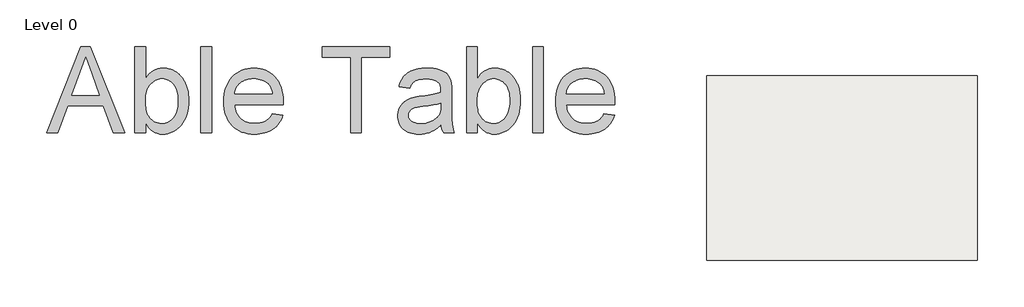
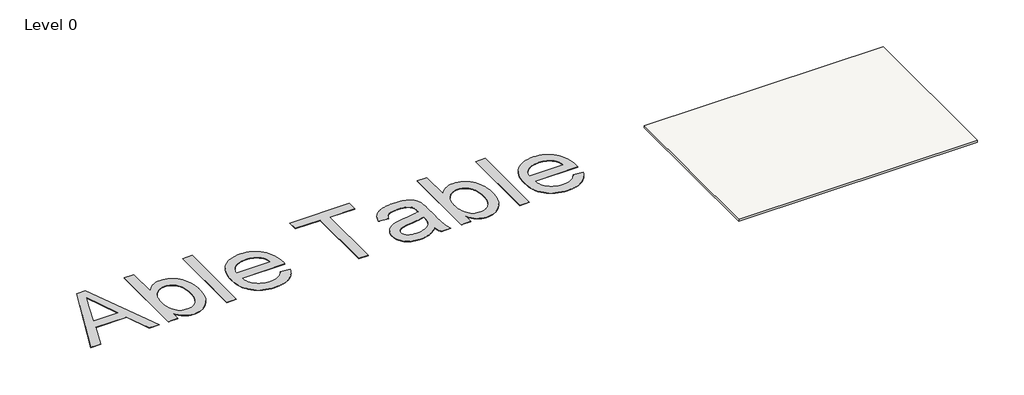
# One storey, incomplete: 1 proxy, 1 slab.
"""IFC4 building model written with IfcOpenShell, lengths in millimetres."""

from ifc_helpers import new_model, si_unit, frame, origin, origin_with_axes, place, context, project, spatial, polyline, outline, extrude, element, save

model = new_model("IFC4")

# Units and contexts
model_context = context("Model", 3, world=origin())
ifc_project = project(units=[si_unit("LENGTHUNIT", "METRE", prefix="MILLI")], contexts=[model_context])

# Site, building, storey
site = spatial("IfcSite", under=ifc_project)
building = spatial("IfcBuilding", under=site)
storey = spatial("IfcBuildingStorey", under=building, Name="Level 0", Elevation=0.0)

# Proxy
placement = place(None, origin())
element("IfcBuildingElementProxy", 1, Name="10 mm", ObjectType="10 mm", at=placement, inside=storey, context=model_context, shape_type="SweptSolid", body=[
    extrude(outline(polyline([(-181909.5749586, 70710.4267394), (-177899.6612112, 80756.0577544), (-176830.3508785, 80756.0577544), (-172820.4371311, 70710.4267394), (-174147.2648604, 70710.4267394), (-175297.509232, 73849.6864316), (-179434.9554044, 73849.6864316), (-180582.7472293, 70710.4267394), (-181909.5749586, 70710.4267394)]), holes=[polyline([(-178973.8766371, 75105.3903085), (-175756.1354526, 75105.3903085), (-176661.1251608, 77575.1047694), (-177365.0060449, 79500.3538775), (-177990.4054367, 77790.9288732), (-178973.8766371, 75105.3903085)])]), origin_with_axes(), (0.0, 0.0, 1.0), 50.0),
    extrude(outline(polyline([(-170380.1532298, 70710.4267394), (-171635.8571066, 70710.4267394), (-171635.8571066, 80756.0577544), (-170380.1532298, 80756.0577544), (-170380.1532298, 77030.6394165), (-170180.3473211, 77315.1731472), (-169967.2056902, 77561.7690471), (-169740.7283369, 77770.4271162), (-169500.9152613, 77941.1473546), (-169247.7664634, 78073.9297622), (-168981.2819431, 78168.7743391), (-168701.4617005, 78225.6810853), (-168408.3057356, 78244.6500006), (-168243.2570113, 78240.3772045), (-168080.4309074, 78227.5588163), (-167919.8274239, 78206.1948358), (-167761.4465608, 78176.2852632), (-167605.288318, 78137.8300984), (-167451.3526957, 78090.8293414), (-167299.6396937, 78035.2829922), (-167150.1493121, 77971.1910509), (-167005.0658503, 77899.3582592), (-166866.5736075, 77820.5893591), (-166734.6725838, 77734.8843505), (-166609.3627792, 77642.2432335), (-166490.6441937, 77542.6660081), (-166378.5168272, 77436.1526741), (-166272.9806799, 77322.7032318), (-166174.0357516, 77202.317681), (-166080.9731031, 77075.264269), (-165993.0837952, 76941.8112431), (-165910.3678279, 76801.9586034), (-165832.8252011, 76655.7063498), (-165760.4559148, 76503.0544823), (-165693.2599691, 76344.003001), (-165631.237364, 76178.5519057), (-165574.3880994, 76006.7011966), (-165523.5169173, 75830.1369995), (-165479.4285594, 75650.5454401), (-165442.1230259, 75467.9265184), (-165411.6003166, 75282.2802345), (-165387.8604316, 75093.6065883), (-165370.9033709, 74901.9055799), (-165360.7291344, 74707.1772092), (-165357.3377223, 74509.4214763), (-165371.3823839, 74050.1054769), (-165413.5163686, 73617.6142063), (-165483.7396766, 73211.9476645), (-165582.0523077, 72833.1058516), (-165708.454262, 72481.0887674), (-165862.9455394, 72155.8964121), (-166045.52614, 71857.5287856), (-166256.1960638, 71585.9858879), (-166486.5630028, 71343.988513), (-166728.2346489, 71134.2574547), (-166981.2110021, 70956.7927131), (-167245.4920625, 70811.5942881), (-167521.0778301, 70698.6621798), (-167807.9683047, 70617.9963881), (-168106.1634866, 70569.5969131), (-168415.6633755, 70553.4637548), (-168719.9707634, 70574.2720802), (-169007.4935353, 70636.6970562), (-169278.2316911, 70740.738683), (-169532.1852309, 70886.3969604), (-169769.3541547, 71073.6718886), (-169989.7384624, 71302.5634675), (-170193.3381541, 71573.0716971), (-170380.1532298, 71885.1965773), (-170380.1532298, 70710.4267394)]), holes=[polyline([(-170380.1532298, 74450.560357), (-170374.788284, 74157.0211817), (-170358.6934467, 73884.6352211), (-170331.8687179, 73633.4024753), (-170294.3140976, 73403.3229441), (-170246.0295857, 73194.3966277), (-170187.0151823, 73006.623526), (-170117.2708874, 72840.003639), (-170036.7967009, 72694.5369667), (-169890.8318551, 72487.0285288), (-169732.5276341, 72307.1878826), (-169561.8840378, 72155.0150282), (-169378.9010662, 72030.5099654), (-169183.5787194, 71933.6726944), (-168975.9169973, 71864.5032151), (-168755.9159, 71823.0015275), (-168523.5754274, 71809.1676317), (-168332.5067162, 71819.3610286), (-168148.029224, 71849.9412195), (-167970.142951, 71900.9082042), (-167798.8478969, 71972.2619829), (-167634.144062, 72064.0025554), (-167476.0314462, 72176.1299219), (-167324.5100494, 72308.6440822), (-167179.5798717, 72461.5450365), (-167046.7974641, 72634.6411794), (-166931.7193775, 72827.7409058), (-166834.3456119, 73040.8442157), (-166754.6761673, 73273.9511091), (-166692.7110437, 73527.061586), (-166648.4502412, 73800.1756464), (-166621.8937597, 74093.2932903), (-166613.0415992, 74406.4145176), (-166621.5297098, 74726.088643), (-166646.9940416, 75024.1497012), (-166689.4345947, 75300.5976921), (-166748.851369, 75555.4326159), (-166825.2443646, 75788.6544724), (-166918.6135814, 76000.2632617), (-167028.9590194, 76190.2589838), (-167156.2806787, 76358.6416387), (-167295.6351449, 76506.3692524), (-167442.0790037, 76634.3998509), (-167595.6122551, 76742.7334343), (-167756.2348992, 76831.3700025), (-167923.9469358, 76900.3095555), (-168098.7483651, 76949.5520934), (-168280.639187, 76979.0976162), (-168469.6194015, 76988.9461238), (-168660.6881127, 76978.7527268), (-168845.1656049, 76948.172536), (-169023.051878, 76897.2055512), (-169194.346932, 76825.8517726), (-169359.0507669, 76734.1112), (-169517.1633828, 76621.9838336), (-169668.6847795, 76489.4696732), (-169813.6149572, 76336.568719), (-169946.3973648, 76164.392281), (-170061.4754514, 75974.0516696), (-170158.849217, 75765.5468846), (-170238.5186616, 75538.8779261), (-170300.4837852, 75294.0447941), (-170344.7445877, 75031.0474886), (-170371.3010693, 74749.8860096), (-170380.1532298, 74450.560357)])]), origin_with_axes(), (0.0, 0.0, 1.0), 50.0),
    extrude(outline(polyline([(-163944.6708608, 70710.4267394), (-163944.6708608, 80756.0577544), (-162688.9669839, 80756.0577544), (-162688.9669839, 70710.4267394), (-163944.6708608, 70710.4267394)])), origin_with_axes(), (0.0, 0.0, 1.0), 50.0),
    extrude(outline(polyline([(-155640.3479564, 72907.9085239), (-154409.1695458, 72750.9455393), (-154495.2960858, 72497.0686416), (-154597.9389946, 72257.8303816), (-154717.0982721, 72033.2307594), (-154852.7739183, 71823.2697748), (-155004.9659333, 71627.947428), (-155173.6743171, 71447.2637189), (-155358.8990695, 71281.2186476), (-155560.6401907, 71129.8122139), (-155777.9013336, 70994.7305438), (-156009.6861511, 70877.6597631), (-156255.9946432, 70778.5998716), (-156516.8268099, 70697.5508696), (-156792.1826511, 70634.5127569), (-157082.062167, 70589.4855335), (-157386.4653575, 70562.4691995), (-157705.3922226, 70553.4637548), (-158105.5788555, 70569.002937), (-158484.5356316, 70615.6204836), (-158842.2625508, 70693.3163945), (-159178.7596133, 70802.0906699), (-159494.026819, 70941.9433096), (-159788.0641678, 71112.8743137), (-160060.8716599, 71314.8836822), (-160312.4492951, 71547.9714151), (-160538.3518328, 71809.1101501), (-160734.1340321, 72095.272525), (-160899.795893, 72406.4585398), (-161035.3374156, 72742.6681944), (-161140.7585999, 73103.901489), (-161216.0594458, 73490.1584234), (-161261.2399533, 73901.4389977), (-161276.3001225, 74337.7432119), (-161261.0866691, 74788.8968295), (-161215.4463091, 75214.0687812), (-161139.3790424, 75613.259067), (-161032.884869, 75986.4676869), (-160895.9637889, 76333.6946409), (-160728.6158021, 76654.939929), (-160530.8409087, 76950.2035511), (-160302.6391086, 77219.4855074), (-160050.1800894, 77459.7584355), (-159779.6335388, 77667.9949732), (-159490.9994567, 77844.1951205), (-159184.2778432, 77988.3588773), (-158859.4686983, 78100.4862438), (-158516.572022, 78180.5772198), (-158155.5878142, 78228.6318054), (-157776.516075, 78244.6500006), (-157409.8411926, 78228.6701265), (-157060.2958157, 78180.730504), (-156727.8799441, 78100.8311331), (-156412.5935779, 77988.972014), (-156114.4367171, 77845.1531465), (-155833.4093617, 77669.3745307), (-155569.5115118, 77461.6361665), (-155322.7431672, 77221.938054), (-155099.4272998, 76953.2692344), (-154905.8868814, 76658.6187489), (-154742.121912, 76337.9865975), (-154608.1323916, 75991.3727802), (-154503.9183201, 75618.7772969), (-154429.4796976, 75220.2001478), (-154384.8165242, 74795.6413327), (-154369.9287997, 74345.1008518), (-154377.2864396, 74006.6494162), (-160020.5962456, 74006.6494162), (-159993.2158617, 73748.3272777), (-159947.8629095, 73505.5634819), (-159884.5373889, 73278.3580289), (-159803.2393001, 73066.7109185), (-159703.968643, 72870.6221509), (-159586.7254175, 72690.091726), (-159451.5096238, 72525.1196437), (-159298.3212617, 72375.7059042), (-159131.1457196, 72242.9234966), (-158953.9683858, 72127.84541), (-158766.7892603, 72030.4716444), (-158569.6083429, 71950.8021998), (-158362.4256339, 71888.8370763), (-158145.2411331, 71844.5762737), (-157918.0548406, 71818.0197922), (-157680.8667563, 71809.1676317), (-157503.9001882, 71813.2679831), (-157333.5248392, 71825.5690373), (-157169.7407092, 71846.0707943), (-157012.5477984, 71874.7732541), (-156861.9461066, 71911.6764168), (-156717.9356339, 71956.7802822), (-156580.5163803, 72010.0848505), (-156449.6883457, 72071.5901216), (-156325.4515303, 72142.0625163), (-156207.8059339, 72222.2684554), (-156096.7515566, 72312.207939), (-155992.2883984, 72411.8809671), (-155894.4164593, 72521.2875396), (-155803.1357392, 72640.4276566), (-155718.4462382, 72769.301318), (-155640.3479564, 72907.9085239)]), holes=[polyline([(-160020.5962456, 75262.3532931), (-155625.6326765, 75262.3532931), (-155652.8022947, 75445.9110802), (-155690.1653099, 75617.6659867), (-155737.721722, 75777.6180126), (-155795.471531, 75925.7671577), (-155863.414737, 76062.1134222), (-155941.5513399, 76186.6568059), (-156029.8813398, 76299.3973091), (-156128.4047366, 76400.3349315), (-156293.7217082, 76538.2906797), (-156470.8415605, 76657.8523281), (-156659.7642934, 76759.0198768), (-156860.489907, 76841.7933257), (-157073.0184013, 76906.1726748), (-157297.3497763, 76952.1579242), (-157533.4840319, 76979.7490739), (-157781.4211683, 76988.9461238), (-158006.7680508, 76981.6076444), (-158222.9562046, 76959.5922062), (-158429.9856295, 76922.8998093), (-158627.8563255, 76871.5304536), (-158816.5682927, 76805.4841392), (-158996.1215311, 76724.760866), (-159166.5160406, 76629.360634), (-159327.7518213, 76519.2834433), (-159475.6518797, 76396.9051983), (-159606.0392223, 76264.6018037), (-159718.913849, 76122.3732594), (-159814.27576, 75970.2195655), (-159892.1249551, 75808.1407218), (-159952.4614344, 75636.1367286), (-159995.2851979, 75454.2075857), (-160020.5962456, 75262.3532931)])]), origin_with_axes(), (0.0, 0.0, 1.0), 50.0),
    extrude(outline(polyline([(-146521.7795692, 70710.4267394), (-146521.7795692, 79500.3538775), (-149818.002246, 79500.3538775), (-149818.002246, 80756.0577544), (-141969.8530156, 80756.0577544), (-141969.8530156, 79500.3538775), (-145266.0756924, 79500.3538775), (-145266.0756924, 70710.4267394), (-146521.7795692, 70710.4267394)])), origin_with_axes(), (0.0, 0.0, 1.0), 50.0),
    extrude(outline(polyline([(-136005.2596005, 71652.2046471), (-136153.5811903, 71506.92958), (-136303.0140903, 71372.7676149), (-136453.5583005, 71249.7187517), (-136605.2138209, 71137.7829905), (-136757.9806515, 71036.9603312), (-136911.8587923, 70947.2507738), (-137066.8482433, 70868.6543184), (-137222.9490045, 70801.1709649), (-137381.0424598, 70743.1145875), (-137542.0099932, 70692.7990605), (-137705.8516047, 70650.2243837), (-137872.5672943, 70615.3905573), (-138042.157062, 70588.2975812), (-138214.6209077, 70568.9454554), (-138389.9588316, 70557.33418), (-138568.1708335, 70553.4637548), (-138856.3259026, 70562.7757678), (-139127.2748241, 70590.7118068), (-139381.0175982, 70637.2718718), (-139617.5542248, 70702.4559628), (-139836.8847039, 70786.2640799), (-140039.0090355, 70888.6962229), (-140223.9272196, 71009.7523919), (-140391.6392563, 71149.432587), (-140540.803909, 71303.5981356), (-140670.0799414, 71468.1103653), (-140779.4673534, 71642.9692761), (-140868.966145, 71828.1748681), (-140938.5763163, 72023.7271412), (-140988.2978672, 72229.6260953), (-141018.1307977, 72445.8717306), (-141028.0751079, 72672.464047), (-141024.3196459, 72807.0858646), (-141013.0532598, 72938.718641), (-140994.2759496, 73067.3623762), (-140967.9877154, 73193.0170702), (-140934.1885571, 73315.682723), (-140892.8784747, 73435.3593345), (-140844.0574683, 73552.0469049), (-140787.7255377, 73665.745434), (-140725.2814012, 73775.1903276), (-140658.1237765, 73879.1169912), (-140586.2526638, 73977.5254249), (-140509.6680631, 74070.4156287), (-140428.3699742, 74157.7876025), (-140342.3583973, 74239.6413465), (-140251.6333324, 74315.9768605), (-140156.1947794, 74386.7941445), (-140056.8858012, 74452.7829774), (-139954.5494608, 74514.6331379), (-139849.1857581, 74572.3446259), (-139740.7946931, 74625.9174414), (-139629.376266, 74675.3515845), (-139514.9304765, 74720.6470552), (-139397.4573248, 74761.8038534), (-139276.9568109, 74798.8219791), (-139073.8552927, 74847.4130593), (-138825.0750935, 74895.0844345), (-138530.6162132, 74941.8361048), (-138190.4786518, 74987.66807), (-137832.9433377, 75034.1131719), (-137499.7802059, 75082.7042521), (-137190.9892562, 75133.4413106), (-136906.5704886, 75186.3243474), (-136646.5239033, 75241.3533625), (-136410.8495001, 75298.5283559), (-136199.5472792, 75357.8493276), (-136012.6172404, 75419.3162777), (-136005.2596005, 75698.906594), (-136010.6628673, 75857.172494), (-136026.8726677, 76003.328945), (-136053.8890017, 76137.375947), (-136091.7118693, 76259.3135), (-136140.3412706, 76369.141604), (-136199.7772054, 76466.8602589), (-136270.0196739, 76552.4694649), (-136351.0686759, 76625.9692219), (-136474.6923547, 76711.0419332), (-136612.5714608, 76784.7716164), (-136764.7059942, 76847.1582715), (-136931.095955, 76898.2018983), (-137111.741343, 76937.9024969), (-137306.6421584, 76966.2600674), (-137515.7984011, 76983.2746097), (-137739.2100711, 76988.9461238), (-137947.3699667, 76985.1715012), (-138141.4277191, 76973.8476335), (-138321.3833284, 76954.9745208), (-138487.2367946, 76928.5521629), (-138638.9881176, 76894.5805599), (-138776.6372974, 76853.0597118), (-138900.1843342, 76803.9896186), (-139009.6292277, 76747.3702803), (-139108.6891191, 76681.1323606), (-139201.0811494, 76603.2065234), (-139286.8053185, 76513.5927686), (-139365.8616264, 76412.2910963), (-139438.2500732, 76299.3015064), (-139503.9706587, 76174.623999), (-139563.0233832, 76038.258574), (-139615.4082465, 75890.2052315), (-140871.1121233, 76047.1682161), (-140826.6788761, 76232.6420553), (-140775.5394467, 76408.9188447), (-140717.693835, 76575.9985842), (-140653.1420412, 76733.8812738), (-140581.8840651, 76882.5669135), (-140503.9199069, 77022.0555033), (-140419.2495664, 77152.3470433), (-140327.8730438, 77273.4415334), (-140227.8934474, 77386.6035679), (-140117.4138857, 77493.0977413), (-139996.4343587, 77592.9240536), (-139864.9548665, 77686.0825046), (-139722.975409, 77772.5730945), (-139570.4959862, 77852.3958233), (-139407.5165981, 77925.5506909), (-139234.0372448, 77992.0376973), (-139051.7632125, 78051.2437059), (-138862.3997876, 78102.55558), (-138665.94697, 78145.9733196), (-138462.4047599, 78181.4969248), (-138251.7731571, 78209.1263955), (-138034.0521618, 78228.8617317), (-137809.2417738, 78240.7029334), (-137577.3419932, 78244.6500006), (-137348.622859, 78241.1627859), (-137130.9018636, 78230.7011416), (-136924.179007, 78213.2650679), (-136728.4542893, 78188.8545647), (-136543.7277104, 78157.469632), (-136369.9992703, 78119.1102698), (-136207.2689689, 78073.7764781), (-136055.5368065, 78021.4682569), (-135914.1513251, 77963.8908925), (-135782.4610671, 77902.7496714), (-135660.4660326, 77838.0445934), (-135548.1662214, 77769.7756585), (-135445.5616337, 77697.9428669), (-135352.6522694, 77622.5462184), (-135269.4381285, 77543.5857131), (-135195.9192111, 77461.0613509), (-135129.8154151, 77373.9767849), (-135068.8466386, 77281.3356678), (-135013.0128816, 77183.1379999), (-134962.3141441, 77079.3837809), (-134916.7504262, 76970.073011), (-134876.3217278, 76855.2056901), (-134841.0280488, 76734.7818182), (-134810.8693894, 76608.8013954), (-134796.498999, 76521.8892741), (-134784.0446606, 76420.5684412), (-134764.88414, 76174.7006411), (-134753.3878277, 75871.1979951), (-134749.5557236, 75510.0605032), (-134749.5557236, 73947.788297), (-134745.5703353, 73199.8382155), (-134733.6141705, 72586.9314831), (-134724.6470468, 72331.1193728), (-134713.6872291, 72109.0680998), (-134700.7347171, 71920.7776641), (-134685.7895111, 71766.2480656), (-134667.9319059, 71629.307825), (-134646.2421966, 71493.7854629), (-134620.7203832, 71359.6809793), (-134591.3664657, 71226.9943743), (-134558.180444, 71095.7256478), (-134521.1623182, 70965.8747998), (-134480.3120884, 70837.4418303), (-134435.6297544, 70710.4267394), (-135691.3336312, 70710.4267394), (-135749.8881821, 70813.1271297), (-135802.9245031, 70920.1194767), (-135850.4425941, 71031.4037802), (-135892.4424553, 71146.9800404), (-135928.9240865, 71266.8482571), (-135959.8874877, 71391.0084305), (-135985.332659, 71519.4605605), (-136005.2596005, 71652.2046471)]), holes=[polyline([(-136005.2596005, 74163.6124008), (-136184.4487889, 74108.2384963), (-136384.7911921, 74054.9339281), (-136606.2868101, 74003.698696), (-136848.9356427, 73954.5328002), (-137112.7376901, 73907.4362406), (-137397.6929522, 73862.4090173), (-137703.801429, 73819.4511301), (-138031.0631206, 73778.5625792), (-138384.6130463, 73731.810909), (-138682.5208204, 73682.3001238), (-138810.6089004, 73656.5100631), (-138924.7864426, 73630.0302236), (-139025.0534468, 73602.8606054), (-139111.4099131, 73575.0012085), (-139188.5310084, 73545.1491175), (-139261.0918998, 73512.0014168), (-139329.0925874, 73475.5581067), (-139392.533071, 73435.819187), (-139451.4133508, 73392.7846578), (-139505.7334266, 73346.454519), (-139555.4932986, 73296.8287707), (-139600.6929666, 73243.9074129), (-139640.9300599, 73188.6101505), (-139675.8022073, 73131.8566885), (-139705.309409, 73073.647027), (-139729.451665, 73013.9811659), (-139748.2289751, 72952.8591052), (-139761.6413395, 72890.280845), (-139769.6887582, 72826.2463852), (-139772.3712311, 72760.7557259), (-139766.5272723, 72661.0826978), (-139748.995396, 72565.6249843), (-139719.7756021, 72474.3825852), (-139678.8678906, 72387.3555008), (-139626.2722616, 72304.5437308), (-139561.9887151, 72225.9472754), (-139486.017251, 72151.5661345), (-139398.3578693, 72081.4003081), (-139299.3937805, 72017.5957746), (-139189.508195, 71962.2985122), (-139068.7011127, 71915.5085209), (-138936.9725337, 71877.2258008), (-138794.3224579, 71847.4503518), (-138640.7508855, 71826.1821739), (-138476.2578163, 71813.4212672), (-138300.8432504, 71809.1676317), (-138124.8730293, 71813.8619592), (-137953.8079016, 71827.9449418), (-137787.6478671, 71851.4165796), (-137626.3929259, 71884.2768724), (-137470.0430779, 71926.5258202), (-137318.5983232, 71978.1634232), (-137172.0586618, 72039.1896813), (-137030.4240937, 72109.6045944), (-136895.8405971, 72186.6873687), (-136770.4541504, 72267.7172102), (-136654.2647536, 72352.694119), (-136547.2724067, 72441.618095), (-136449.4771096, 72534.4891383), (-136360.8788625, 72631.3072488), (-136281.4776652, 72732.0724266), (-136211.2735178, 72836.7846715), (-136164.7134527, 72923.8500771), (-136124.3613964, 73020.7256691), (-136090.2173487, 73127.4114477), (-136062.2813097, 73243.9074129), (-136040.5532794, 73370.2135645), (-136025.0332577, 73506.3299028), (-136015.7212447, 73652.2564275), (-136012.6172404, 73807.9931388), (-136005.2596005, 74163.6124008)])]), origin_with_axes(), (0.0, 0.0, 1.0), 50.0),
    extrude(outline(polyline([(-131767.259016, 70710.4267394), (-133022.9628929, 70710.4267394), (-133022.9628929, 80756.0577544), (-131767.259016, 80756.0577544), (-131767.259016, 77030.6394165), (-131567.4531074, 77315.1731472), (-131354.3114764, 77561.7690471), (-131127.8341231, 77770.4271162), (-130888.0210475, 77941.1473546), (-130634.8722496, 78073.9297622), (-130368.3877294, 78168.7743391), (-130088.5674868, 78225.6810853), (-129795.4115219, 78244.6500006), (-129630.3627976, 78240.3772045), (-129467.5366937, 78227.5588163), (-129306.9332101, 78206.1948358), (-129148.552347, 78176.2852632), (-128992.3941043, 78137.8300984), (-128838.4584819, 78090.8293414), (-128686.7454799, 78035.2829922), (-128537.2550984, 77971.1910509), (-128392.1716365, 77899.3582592), (-128253.6793937, 77820.5893591), (-128121.7783701, 77734.8843505), (-127996.4685655, 77642.2432335), (-127877.7499799, 77542.6660081), (-127765.6226135, 77436.1526741), (-127660.0864661, 77322.7032318), (-127561.1415378, 77202.317681), (-127468.0788894, 77075.264269), (-127380.1895814, 76941.8112431), (-127297.4736141, 76801.9586034), (-127219.9309873, 76655.7063498), (-127147.5617011, 76503.0544823), (-127080.3657554, 76344.003001), (-127018.3431503, 76178.5519057), (-126961.4938857, 76006.7011966), (-126910.6227035, 75830.1369995), (-126866.5343457, 75650.5454401), (-126829.2288121, 75467.9265184), (-126798.7061028, 75282.2802345), (-126774.9662178, 75093.6065883), (-126758.0091571, 74901.9055799), (-126747.8349207, 74707.1772092), (-126744.4435085, 74509.4214763), (-126758.4881701, 74050.1054769), (-126800.6221549, 73617.6142063), (-126870.8454628, 73211.9476645), (-126969.1580939, 72833.1058516), (-127095.5600482, 72481.0887674), (-127250.0513257, 72155.8964121), (-127432.6319263, 71857.5287856), (-127643.3018501, 71585.9858879), (-127873.668789, 71343.988513), (-128115.3404351, 71134.2574547), (-128368.3167884, 70956.7927131), (-128632.5978488, 70811.5942881), (-128908.1836163, 70698.6621798), (-129195.074091, 70617.9963881), (-129493.2692728, 70569.5969131), (-129802.7691618, 70553.4637548), (-130107.0765497, 70574.2720802), (-130394.5993215, 70636.6970562), (-130665.3374773, 70740.738683), (-130919.2910171, 70886.3969604), (-131156.4599409, 71073.6718886), (-131376.8442486, 71302.5634675), (-131580.4439403, 71573.0716971), (-131767.259016, 71885.1965773), (-131767.259016, 70710.4267394)]), holes=[polyline([(-131767.259016, 74450.560357), (-131761.8940703, 74157.0211817), (-131745.799233, 73884.6352211), (-131718.9745041, 73633.4024753), (-131681.4198838, 73403.3229441), (-131633.1353719, 73194.3966277), (-131574.1209685, 73006.623526), (-131504.3766736, 72840.003639), (-131423.9024872, 72694.5369667), (-131277.9376414, 72487.0285288), (-131119.6334203, 72307.1878826), (-130948.989824, 72155.0150282), (-130766.0068525, 72030.5099654), (-130570.6845057, 71933.6726944), (-130363.0227836, 71864.5032151), (-130143.0216863, 71823.0015275), (-129910.6812137, 71809.1676317), (-129719.6125024, 71819.3610286), (-129535.1350103, 71849.9412195), (-129357.2487372, 71900.9082042), (-129185.9536832, 71972.2619829), (-129021.2498483, 72064.0025554), (-128863.1372324, 72176.1299219), (-128711.6158357, 72308.6440822), (-128566.685658, 72461.5450365), (-128433.9032503, 72634.6411794), (-128318.8251637, 72827.7409058), (-128221.4513981, 73040.8442157), (-128141.7819535, 73273.9511091), (-128079.81683, 73527.061586), (-128035.5560274, 73800.1756464), (-128008.9995459, 74093.2932903), (-128000.1473854, 74406.4145176), (-128008.635496, 74726.088643), (-128034.0998279, 75024.1497012), (-128076.540381, 75300.5976921), (-128135.9571553, 75555.4326159), (-128212.3501509, 75788.6544724), (-128305.7193676, 76000.2632617), (-128416.0648057, 76190.2589838), (-128543.3864649, 76358.6416387), (-128682.7409311, 76506.3692524), (-128829.18479, 76634.3998509), (-128982.7180414, 76742.7334343), (-129143.3406854, 76831.3700025), (-129311.0527221, 76900.3095555), (-129485.8541513, 76949.5520934), (-129667.7449732, 76979.0976162), (-129856.7251877, 76988.9461238), (-130047.793899, 76978.7527268), (-130232.2713911, 76948.172536), (-130410.1576642, 76897.2055512), (-130581.4527182, 76825.8517726), (-130746.1565532, 76734.1112), (-130904.269169, 76621.9838336), (-131055.7905658, 76489.4696732), (-131200.7207434, 76336.568719), (-131333.5031511, 76164.392281), (-131448.5812377, 75974.0516696), (-131545.9550033, 75765.5468846), (-131625.6244479, 75538.8779261), (-131687.5895714, 75294.0447941), (-131731.850374, 75031.0474886), (-131758.4068555, 74749.8860096), (-131767.259016, 74450.560357)])]), origin_with_axes(), (0.0, 0.0, 1.0), 50.0),
    extrude(outline(polyline([(-125331.7766471, 70710.4267394), (-125331.7766471, 80756.0577544), (-124076.0727702, 80756.0577544), (-124076.0727702, 70710.4267394), (-125331.7766471, 70710.4267394)])), origin_with_axes(), (0.0, 0.0, 1.0), 50.0),
    extrude(outline(polyline([(-117027.4537426, 72907.9085239), (-115796.2753321, 72750.9455393), (-115882.4018721, 72497.0686416), (-115985.0447808, 72257.8303816), (-116104.2040583, 72033.2307594), (-116239.8797046, 71823.2697748), (-116392.0717196, 71627.947428), (-116560.7801033, 71447.2637189), (-116746.0048558, 71281.2186476), (-116947.745977, 71129.8122139), (-117165.0071199, 70994.7305438), (-117396.7919373, 70877.6597631), (-117643.1004294, 70778.5998716), (-117903.9325961, 70697.5508696), (-118179.2884374, 70634.5127569), (-118469.1679533, 70589.4855335), (-118773.5711438, 70562.4691995), (-119092.4980089, 70553.4637548), (-119492.6846417, 70569.002937), (-119871.6414178, 70615.6204836), (-120229.3683371, 70693.3163945), (-120565.8653995, 70802.0906699), (-120881.1326052, 70941.9433096), (-121175.1699541, 71112.8743137), (-121447.9774461, 71314.8836822), (-121699.5550813, 71547.9714151), (-121925.457619, 71809.1101501), (-122121.2398183, 72095.272525), (-122286.9016793, 72406.4585398), (-122422.4432019, 72742.6681944), (-122527.8643861, 73103.901489), (-122603.165232, 73490.1584234), (-122648.3457395, 73901.4389977), (-122663.4059087, 74337.7432119), (-122648.1924554, 74788.8968295), (-122602.5520953, 75214.0687812), (-122526.4848286, 75613.259067), (-122419.9906552, 75986.4676869), (-122283.0695752, 76333.6946409), (-122115.7215884, 76654.939929), (-121917.9466949, 76950.2035511), (-121689.7448948, 77219.4855074), (-121437.2858756, 77459.7584355), (-121166.739325, 77667.9949732), (-120878.1052429, 77844.1951205), (-120571.3836295, 77988.3588773), (-120246.5744846, 78100.4862438), (-119903.6778082, 78180.5772198), (-119542.6936005, 78228.6318054), (-119163.6218613, 78244.6500006), (-118796.9469789, 78228.6701265), (-118447.4016019, 78180.730504), (-118114.9857303, 78100.8311331), (-117799.6993641, 77988.972014), (-117501.5425034, 77845.1531465), (-117220.515148, 77669.3745307), (-116956.617298, 77461.6361665), (-116709.8489534, 77221.938054), (-116486.533086, 76953.2692344), (-116292.9926676, 76658.6187489), (-116129.2276982, 76337.9865975), (-115995.2381778, 75991.3727802), (-115891.0241064, 75618.7772969), (-115816.5854839, 75220.2001478), (-115771.9223104, 74795.6413327), (-115757.0345859, 74345.1008518), (-115764.3922258, 74006.6494162), (-121407.7020318, 74006.6494162), (-121380.3216479, 73748.3272777), (-121334.9686957, 73505.5634819), (-121271.6431752, 73278.3580289), (-121190.3450864, 73066.7109185), (-121091.0744292, 72870.6221509), (-120973.8312038, 72690.091726), (-120838.61541, 72525.1196437), (-120685.427048, 72375.7059042), (-120518.2515059, 72242.9234966), (-120341.0741721, 72127.84541), (-120153.8950465, 72030.4716444), (-119956.7141292, 71950.8021998), (-119749.5314201, 71888.8370763), (-119532.3469193, 71844.5762737), (-119305.1606268, 71818.0197922), (-119067.9725425, 71809.1676317), (-118891.0059744, 71813.2679831), (-118720.6306254, 71825.5690373), (-118556.8464955, 71846.0707943), (-118399.6535846, 71874.7732541), (-118249.0518928, 71911.6764168), (-118105.0414201, 71956.7802822), (-117967.6221665, 72010.0848505), (-117836.794132, 72071.5901216), (-117712.5573165, 72142.0625163), (-117594.9117202, 72222.2684554), (-117483.8573429, 72312.207939), (-117379.3941847, 72411.8809671), (-117281.5222455, 72521.2875396), (-117190.2415255, 72640.4276566), (-117105.5520245, 72769.301318), (-117027.4537426, 72907.9085239)]), holes=[polyline([(-121407.7020318, 75262.3532931), (-117012.7384628, 75262.3532931), (-117039.908081, 75445.9110802), (-117077.2710961, 75617.6659867), (-117124.8275082, 75777.6180126), (-117182.5773172, 75925.7671577), (-117250.5205232, 76062.1134222), (-117328.6571261, 76186.6568059), (-117416.987126, 76299.3973091), (-117515.5105229, 76400.3349315), (-117680.8274944, 76538.2906797), (-117857.9473467, 76657.8523281), (-118046.8700796, 76759.0198768), (-118247.5956933, 76841.7933257), (-118460.1241876, 76906.1726748), (-118684.4555625, 76952.1579242), (-118920.5898182, 76979.7490739), (-119168.5269545, 76988.9461238), (-119393.8738371, 76981.6076444), (-119610.0619908, 76959.5922062), (-119817.0914157, 76922.8998093), (-120014.9621118, 76871.5304536), (-120203.674079, 76805.4841392), (-120383.2273174, 76724.760866), (-120553.6218269, 76629.360634), (-120714.8576076, 76519.2834433), (-120862.757666, 76396.9051983), (-120993.1450085, 76264.6018037), (-121106.0196353, 76122.3732594), (-121201.3815462, 75970.2195655), (-121279.2307413, 75808.1407218), (-121339.5672206, 75636.1367286), (-121382.3909841, 75454.2075857), (-121407.7020318, 75262.3532931)])]), origin_with_axes(), (0.0, 0.0, 1.0), 50.0),
])

# Slab
element("IfcSlab", 2, ObjectType="FL_300 mm_Generic", at=placement, inside=storey, context=model_context, shape_type="SweptSolid", body=[
    extrude(outline(polyline([(-73547.8885325, 77369.9753886), (-73547.8885325, 55869.9753886), (-105047.8885325, 55869.9753886), (-105047.8885325, 77369.9753886), (-73547.8885325, 77369.9753886)])), frame((0.0, 0.0, -300.0), z_axis=(0.0, 0.0, 1.0), x_axis=(1.0, 0.0, 0.0)), (0.0, 0.0, 1.0), 300.0),
])

save(model, "model.ifc")
